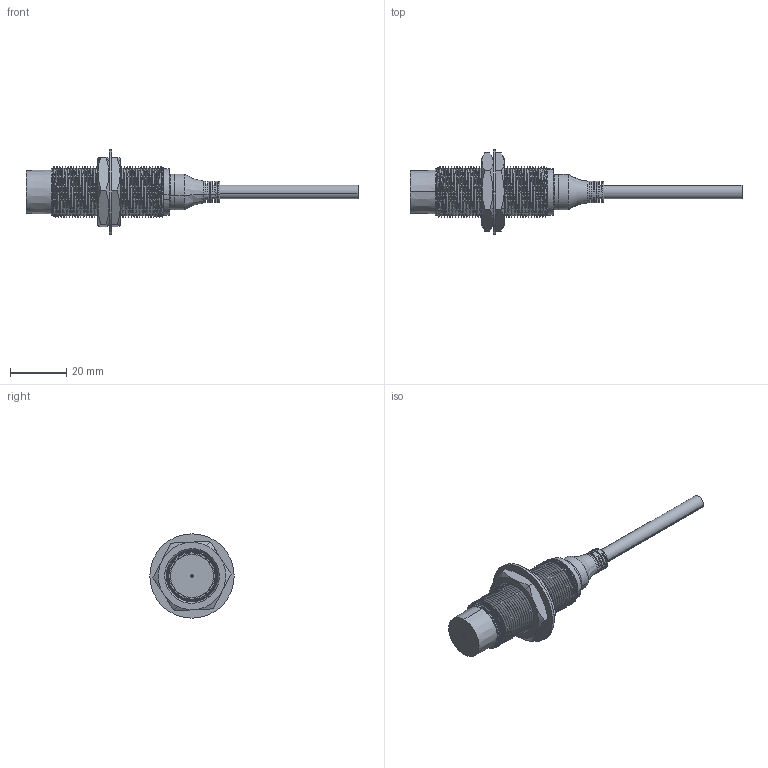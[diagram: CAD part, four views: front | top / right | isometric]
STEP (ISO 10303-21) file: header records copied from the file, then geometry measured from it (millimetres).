
FILE_DESCRIPTION (( 'STEP AP214' ), '1' );
FILE_NAME ('SN18Y-D-K40.STEP', '2025-08-20T10:04:47', ( 'Windows User' ), ( 'P R C' ), 'SwSTEP 2.0', 'SolidWorks 2023', '' );
FILE_SCHEMA (( 'AUTOMOTIVE_DESIGN' ));
Length unit declared in the file: millimetre
Products named in the file (8): M18垫片; M18__________; M18 HOUSING; M18螺母; SN18Y-D-K40; M18_ASM1_191203; SN18Y-D-K40(2); ____2
Assembly tree (8 placements, depth 3):
  SN18Y-D-K40
    SN18Y-D-K40(2)
      M18 HOUSING
      ____2
      M18__________
    M18_ASM1_191203
    M18垫片
    M18螺母  x2
Bounding box: 118.22 x 30 x 30 mm (x, y, z)
Volume: 12986.9 mm3; surface area: 13813.2 mm2
Topology: 17 solids, 17 shells, 552 faces, 1454 edges, 944 vertices
Faces by surface type: plane 222, cylinder 216, cone 87, bspline 23, torus 4
Entity records: 30293 total; most frequent: CARTESIAN_POINT 17706, ORIENTED_EDGE 2750, DIRECTION 2361, EDGE_CURVE 1375, VERTEX_POINT 895, AXIS2_PLACEMENT_3D 868, LINE 625, VECTOR 625
